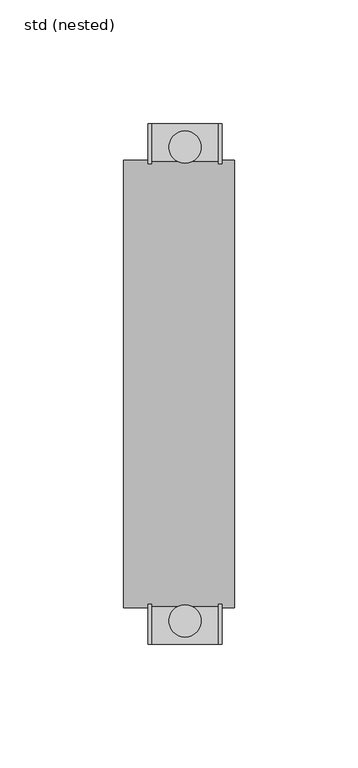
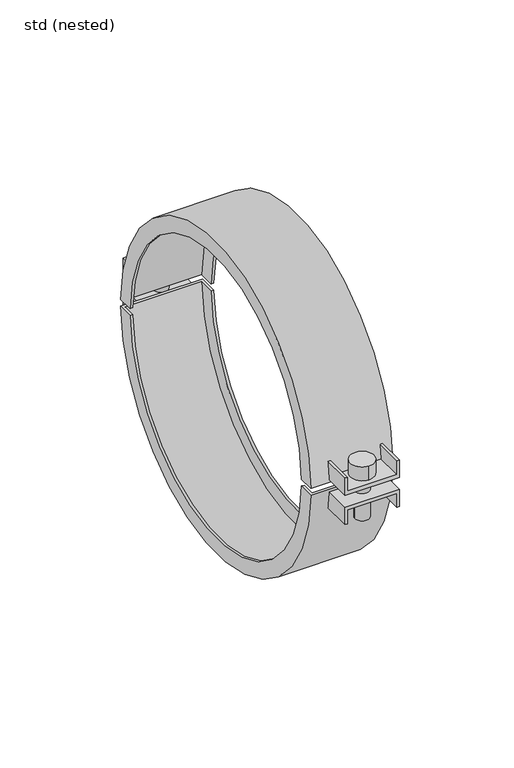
"""IFC4 building model written with IfcOpenShell, lengths in millimetres: pipe fitting geometry, ZZZ_do not use_PIF_ST_UN_ACO pipe socket clamp two parts_ACO : std (nested)."""

from ifc_helpers import new_model, si_unit, point, frame, frame_2d, origin, place, context, project, spatial, polyline, circle_curve, trimmed, segment, composite_curve, outline, extrude, source, transform, mapped, element, save
from ifc_brep_helpers import plane_surface, cylinder_surface, revolved_surface, advanced_brep


def std_nested_902816f2(model_context):
    return source(origin(), model_context, "Body", "SolidModel", [
        advanced_brep(
        [(-22.5, 90.4778979, -2.0), (-22.5, -90.4778979, -2.0), (-22.5, -81.7255315, -2.0), (-22.5, 81.7255315, -2.0), (-21.0, -81.7255315, -2.0), (-21.0, 81.7255315, -2.0), (-21.0, -88.9775253, -2.0), (-21.0, 88.9775253, -2.0), (21.0, -88.9775253, -2.0), (21.0, 88.9775253, -2.0), (21.0, -79.9749961, -2.0), (21.0, 79.9749961, -2.0), (22.5, -79.9749961, -2.0), (22.5, 79.9749961, -2.0), (22.5, -90.4778979, -2.0), (22.5, 90.4778979, -2.0)],
        [
            (0, 1, circle_curve(frame((-22.5, 0.0, 0.0), z_axis=(-1.0, 0.0, 0.0), x_axis=(0.0, 1.0, 0.0)), 90.5)),
            (1, 2),
            (2, 3, circle_curve(frame((-22.5, 0.0, 0.0), z_axis=(1.0, 0.0, 0.0), x_axis=(0.0, 1.0, 0.0)), 81.75)),
            (3, 0),
            (2, 4),
            (4, 5, circle_curve(frame((-21.0, 0.0, 0.0), z_axis=(1.0, 0.0, 0.0), x_axis=(0.0, 1.0, 0.0)), 81.75)),
            (5, 3),
            (4, 6),
            (6, 7, circle_curve(frame((-21.0, 0.0, 0.0), z_axis=(1.0, 0.0, 0.0), x_axis=(0.0, 1.0, 0.0)), 89.0)),
            (7, 5),
            (6, 8),
            (8, 9, circle_curve(frame((21.0, 0.0, 0.0), z_axis=(1.0, 0.0, 0.0), x_axis=(0.0, 1.0, 0.0)), 89.0)),
            (9, 7),
            (8, 10),
            (10, 11, circle_curve(frame((21.0, 0.0, 0.0), z_axis=(1.0, 0.0, 0.0), x_axis=(0.0, 1.0, 0.0)), 80.0)),
            (11, 9),
            (10, 12),
            (12, 13, circle_curve(frame((22.5, 0.0, 0.0), z_axis=(1.0, 0.0, 0.0), x_axis=(0.0, 1.0, 0.0)), 80.0)),
            (13, 11),
            (12, 14),
            (14, 15, circle_curve(frame((22.5, 0.0, 0.0), z_axis=(1.0, 0.0, 0.0), x_axis=(0.0, 1.0, 0.0)), 90.5)),
            (15, 13),
            (0, 15),
            (14, 1),
        ],
        [
            plane_surface(frame((-22.5, 0.0, 0.0), z_axis=(-1.0, 0.0, 0.0), x_axis=(0.0, 1.0, 0.0))),
            revolved_surface(polyline([(-22.5, 81.75, 0.0), (-21.0, 81.75, 0.0)]), (-37.5, 0.0, 0.0), (-1.0, 0.0, 0.0)),
            plane_surface(frame((-21.0, 0.0, 0.0), z_axis=(1.0, 0.0, 0.0), x_axis=(0.0, 1.0, 0.0))),
            revolved_surface(polyline([(-21.0, 89.0, 0.0), (21.0, 89.0, 0.0)]), (-37.5, 0.0, 0.0), (-1.0, 0.0, 0.0)),
            plane_surface(frame((21.0, 0.0, 0.0), z_axis=(-1.0, 0.0, 0.0), x_axis=(0.0, 1.0, 0.0))),
            revolved_surface(polyline([(21.0, 80.0, 0.0), (22.5, 80.0, 0.0)]), (-37.5, 0.0, 0.0), (-1.0, 0.0, 0.0)),
            plane_surface(frame((22.5, 0.0, 0.0), z_axis=(1.0, 0.0, 0.0), x_axis=(0.0, 1.0, 0.0))),
            cylinder_surface(frame((-37.5, 0.0, 0.0), z_axis=(-1.0, 0.0, 0.0), x_axis=(0.0, 1.0, 0.0)), 90.5),
            plane_surface(frame((22.5, -91.5, -2.0), z_axis=(0.0, 0.0, 1.0), x_axis=(-1.0, 0.0, 0.0))),
        ],
        [
            (0, [[1, 2, 3, 4]]),
            (1, [[-3, 5, 6, 7]]),
            (2, [[-6, 8, 9, 10]]),
            (3, [[-9, 11, 12, 13]]),
            (4, [[-12, 14, 15, 16]]),
            (5, [[-15, 17, 18, 19]]),
            (6, [[-18, 20, 21, 22]]),
            (7, [[-1, 23, -21, 24]]),
            (8, [[-2, -24, -20, -17, -14, -11, -8, -5]]),
            (8, [[-4, -7, -10, -13, -16, -19, -22, -23]]),
        ],
    ),
        advanced_brep(
        [(-22.5, -90.4778979, 2.0), (-22.5, 90.4778979, 2.0), (-22.5, 81.7255315, 2.0), (-22.5, -81.7255315, 2.0), (-21.0, 81.7255315, 2.0), (-21.0, -81.7255315, 2.0), (-21.0, 88.9775253, 2.0), (-21.0, -88.9775253, 2.0), (21.0, 88.9775253, 2.0), (21.0, -88.9775253, 2.0), (21.0, 79.9749961, 2.0), (21.0, -79.9749961, 2.0), (22.5, 79.9749961, 2.0), (22.5, -79.9749961, 2.0), (22.5, 90.4778979, 2.0), (22.5, -90.4778979, 2.0)],
        [
            (0, 1, circle_curve(frame((-22.5, 0.0, 0.0), z_axis=(-1.0, 0.0, 0.0), x_axis=(0.0, 1.0, 0.0)), 90.5)),
            (1, 2),
            (2, 3, circle_curve(frame((-22.5, 0.0, 0.0), z_axis=(1.0, 0.0, 0.0), x_axis=(0.0, 1.0, 0.0)), 81.75)),
            (3, 0),
            (2, 4),
            (4, 5, circle_curve(frame((-21.0, 0.0, 0.0), z_axis=(1.0, 0.0, 0.0), x_axis=(0.0, 1.0, 0.0)), 81.75)),
            (5, 3),
            (4, 6),
            (6, 7, circle_curve(frame((-21.0, 0.0, 0.0), z_axis=(1.0, 0.0, 0.0), x_axis=(0.0, 1.0, 0.0)), 89.0)),
            (7, 5),
            (6, 8),
            (8, 9, circle_curve(frame((21.0, 0.0, 0.0), z_axis=(1.0, 0.0, 0.0), x_axis=(0.0, 1.0, 0.0)), 89.0)),
            (9, 7),
            (8, 10),
            (10, 11, circle_curve(frame((21.0, 0.0, 0.0), z_axis=(1.0, 0.0, 0.0), x_axis=(0.0, 1.0, 0.0)), 80.0)),
            (11, 9),
            (10, 12),
            (12, 13, circle_curve(frame((22.5, 0.0, 0.0), z_axis=(1.0, 0.0, 0.0), x_axis=(0.0, 1.0, 0.0)), 80.0)),
            (13, 11),
            (12, 14),
            (14, 15, circle_curve(frame((22.5, 0.0, 0.0), z_axis=(1.0, 0.0, 0.0), x_axis=(0.0, 1.0, 0.0)), 90.5)),
            (15, 13),
            (0, 15),
            (14, 1),
        ],
        [
            plane_surface(frame((-22.5, 0.0, 0.0), z_axis=(-1.0, 0.0, 0.0), x_axis=(0.0, 1.0, 0.0))),
            revolved_surface(polyline([(-22.5, 81.75, 0.0), (-21.0, 81.75, 0.0)]), (-37.5, 0.0, 0.0), (-1.0, 0.0, 0.0)),
            plane_surface(frame((-21.0, 0.0, 0.0), z_axis=(1.0, 0.0, 0.0), x_axis=(0.0, 1.0, 0.0))),
            revolved_surface(polyline([(-21.0, 89.0, 0.0), (21.0, 89.0, 0.0)]), (-37.5, 0.0, 0.0), (-1.0, 0.0, 0.0)),
            plane_surface(frame((21.0, 0.0, 0.0), z_axis=(-1.0, 0.0, 0.0), x_axis=(0.0, 1.0, 0.0))),
            revolved_surface(polyline([(21.0, 80.0, 0.0), (22.5, 80.0, 0.0)]), (-37.5, 0.0, 0.0), (-1.0, 0.0, 0.0)),
            plane_surface(frame((22.5, 0.0, 0.0), z_axis=(1.0, 0.0, 0.0), x_axis=(0.0, 1.0, 0.0))),
            cylinder_surface(frame((-37.5, 0.0, 0.0), z_axis=(-1.0, 0.0, 0.0), x_axis=(0.0, 1.0, 0.0)), 90.5),
            plane_surface(frame((22.5, 91.5, 2.0), z_axis=(0.0, 0.0, -1.0), x_axis=(-1.0, 0.0, 0.0))),
        ],
        [
            (0, [[1, 2, 3, 4]]),
            (1, [[-3, 5, 6, 7]]),
            (2, [[-6, 8, 9, 10]]),
            (3, [[-9, 11, 12, 13]]),
            (4, [[-12, 14, 15, 16]]),
            (5, [[-15, 17, 18, 19]]),
            (6, [[-18, 20, 21, 22]]),
            (7, [[-1, 23, -21, 24]]),
            (8, [[-2, -24, -20, -17, -14, -11, -8, -5]]),
            (8, [[-4, -7, -10, -13, -16, -19, -22, -23]]),
        ],
    ),
        extrude(outline(composite_curve([segment(trimmed(circle_curve(frame_2d((2.5, -95.9)), 6.5), [point((2.5, -89.4))], [point((2.5, -102.4))], False, "CARTESIAN"), True, "CONTINUOUS"), segment(trimmed(circle_curve(frame_2d((2.5, -95.9)), 6.5), [point((2.5, -102.4))], [point((2.5, -89.4))], False, "CARTESIAN"), True, "CONTINUOUS")], self_intersect=False)), frame((0.0, 0.0, 5.5), z_axis=(0.0, 0.0, 1.0), x_axis=(1.0, 0.0, 0.0)), (0.0, 0.0, 1.0), 8.0),
        extrude(outline(composite_curve([segment(trimmed(circle_curve(frame_2d((2.5, -95.9)), 4.0), [point((-1.5, -95.9))], [point((6.5, -95.9))], False, "CARTESIAN"), True, "CONTINUOUS"), segment(trimmed(circle_curve(frame_2d((2.5, -95.9)), 4.0), [point((6.5, -95.9))], [point((-1.5, -95.9))], False, "CARTESIAN"), True, "CONTINUOUS")], self_intersect=False)), frame((0.0, 0.0, -19.5), z_axis=(0.0, 0.0, 1.0), x_axis=(1.0, 0.0, 0.0)), (0.0, 0.0, 1.0), 25.0),
        advanced_brep(
        [(-12.5, -105.4, -3.5), (-12.5, -105.4, -13.5), (-11.123617, -105.4, -13.5), (-11.123617, -105.4, -5.5), (16.123617, -105.4, -5.5), (16.123617, -105.4, -13.5), (17.5, -105.4, -13.5), (17.5, -105.4, -3.5), (17.5, -88.9311531, -3.5), (-12.5, -88.9311531, -3.5), (17.5, -87.9701654, -13.5), (16.123617, -87.9701654, -13.5), (16.123617, -88.8298936, -5.5), (-11.123617, -88.8298936, -5.5), (-11.123617, -87.9701654, -13.5), (-12.5, -87.9701654, -13.5)],
        [
            (0, 1),
            (1, 2),
            (2, 3),
            (3, 4),
            (4, 5),
            (5, 6),
            (6, 7),
            (7, 0),
            (7, 8),
            (8, 9),
            (9, 0),
            (6, 10),
            (10, 8, circle_curve(frame((17.5, 0.0, 0.0), z_axis=(-1.0, 0.0, 0.0), x_axis=(0.0, 1.0, 0.0)), 89.0)),
            (5, 11),
            (11, 10),
            (4, 12),
            (12, 11, circle_curve(frame((16.123617, 0.0, 0.0), z_axis=(1.0, 0.0, 0.0), x_axis=(0.0, 1.0, 0.0)), 89.0)),
            (3, 13),
            (13, 12),
            (2, 14),
            (14, 13, circle_curve(frame((-11.123617, 0.0, 0.0), z_axis=(-1.0, 0.0, 0.0), x_axis=(0.0, 1.0, 0.0)), 89.0)),
            (1, 15),
            (15, 14),
            (9, 15, circle_curve(frame((-12.5, 0.0, 0.0), z_axis=(1.0, 0.0, 0.0), x_axis=(0.0, 1.0, 0.0)), 89.0)),
        ],
        [
            plane_surface(frame((2.5, -105.4, -3.5), z_axis=(0.0, -1.0, 0.0), x_axis=(0.0, 0.0, 1.0))),
            plane_surface(frame((17.5, -105.4, -3.5), z_axis=(0.0, 0.0, 1.0), x_axis=(0.0, 1.0, 0.0))),
            plane_surface(frame((17.5, -105.4, -13.5), z_axis=(1.0, 0.0, 0.0), x_axis=(0.0, 1.0, 0.0))),
            plane_surface(frame((16.123617, -105.4, -13.5), z_axis=(0.0, 0.0, -1.0), x_axis=(0.0, 1.0, 0.0))),
            plane_surface(frame((16.123617, -105.4, -5.5), z_axis=(-1.0, 0.0, 0.0), x_axis=(0.0, 1.0, 0.0))),
            plane_surface(frame((-11.123617, -105.4, -5.5), z_axis=(0.0, 0.0, -1.0), x_axis=(0.0, 1.0, 0.0))),
            plane_surface(frame((-11.123617, -105.4, -13.5), z_axis=(1.0, 0.0, 0.0), x_axis=(0.0, 1.0, 0.0))),
            plane_surface(frame((-12.5, -105.4, -13.5), z_axis=(0.0, 0.0, -1.0), x_axis=(0.0, 1.0, 0.0))),
            plane_surface(frame((-12.5, -105.4, -3.5), z_axis=(-1.0, 0.0, 0.0), x_axis=(0.0, 1.0, 0.0))),
            revolved_surface(polyline([(-12.5, 89.0, 0.0), (17.5, 89.0, 0.0)]), (-60.75, 0.0, 0.0), (-1.0, 0.0, 0.0)),
        ],
        [
            (0, [[1, 2, 3, 4, 5, 6, 7, 8]]),
            (1, [[-8, 9, 10, 11]]),
            (2, [[-7, 12, 13, -9]]),
            (3, [[-6, 14, 15, -12]]),
            (4, [[-5, 16, 17, -14]]),
            (5, [[-4, 18, 19, -16]]),
            (6, [[-3, 20, 21, -18]]),
            (7, [[-2, 22, 23, -20]]),
            (8, [[-1, -11, 24, -22]]),
            (9, [[-10, -13, -15, -17, -19, -21, -23, -24]]),
        ],
    ),
        advanced_brep(
        [(-12.5, 105.4, -3.5), (17.5, 105.4, -3.5), (17.5, 105.4, -13.5), (16.123617, 105.4, -13.5), (16.123617, 105.4, -5.5), (-11.123617, 105.4, -5.5), (-11.123617, 105.4, -13.5), (-12.5, 105.4, -13.5), (-12.5, 88.9311531, -3.5), (17.5, 88.9311531, -3.5), (17.5, 87.9701654, -13.5), (16.123617, 87.9701654, -13.5), (16.123617, 88.8298936, -5.5), (-11.123617, 88.8298936, -5.5), (-11.123617, 87.9701654, -13.5), (-12.5, 87.9701654, -13.5)],
        [
            (0, 1),
            (1, 2),
            (2, 3),
            (3, 4),
            (4, 5),
            (5, 6),
            (6, 7),
            (7, 0),
            (0, 8),
            (8, 9),
            (9, 1),
            (9, 10, circle_curve(frame((17.5, 0.0, 0.0), z_axis=(-1.0, 0.0, 0.0), x_axis=(0.0, 1.0, 0.0)), 89.0)),
            (10, 2),
            (10, 11),
            (11, 3),
            (11, 12, circle_curve(frame((16.123617, 0.0, 0.0), z_axis=(1.0, 0.0, 0.0), x_axis=(0.0, 1.0, 0.0)), 89.0)),
            (12, 4),
            (12, 13),
            (13, 5),
            (13, 14, circle_curve(frame((-11.123617, 0.0, 0.0), z_axis=(-1.0, 0.0, 0.0), x_axis=(0.0, 1.0, 0.0)), 89.0)),
            (14, 6),
            (14, 15),
            (15, 7),
            (15, 8, circle_curve(frame((-12.5, 0.0, 0.0), z_axis=(1.0, 0.0, 0.0), x_axis=(0.0, 1.0, 0.0)), 89.0)),
        ],
        [
            plane_surface(frame((2.5, 105.4, -3.5), z_axis=(0.0, 1.0, 0.0), x_axis=(0.0, 0.0, 1.0))),
            plane_surface(frame((17.5, -105.4, -3.5), z_axis=(0.0, 0.0, 1.0), x_axis=(0.0, 1.0, 0.0))),
            plane_surface(frame((17.5, -105.4, -13.5), z_axis=(1.0, 0.0, 0.0), x_axis=(0.0, 1.0, 0.0))),
            plane_surface(frame((16.123617, -105.4, -13.5), z_axis=(0.0, 0.0, -1.0), x_axis=(0.0, 1.0, 0.0))),
            plane_surface(frame((16.123617, -105.4, -5.5), z_axis=(-1.0, 0.0, 0.0), x_axis=(0.0, 1.0, 0.0))),
            plane_surface(frame((-11.123617, -105.4, -5.5), z_axis=(0.0, 0.0, -1.0), x_axis=(0.0, 1.0, 0.0))),
            plane_surface(frame((-11.123617, -105.4, -13.5), z_axis=(1.0, 0.0, 0.0), x_axis=(0.0, 1.0, 0.0))),
            plane_surface(frame((-12.5, -105.4, -13.5), z_axis=(0.0, 0.0, -1.0), x_axis=(0.0, 1.0, 0.0))),
            plane_surface(frame((-12.5, -105.4, -3.5), z_axis=(-1.0, 0.0, 0.0), x_axis=(0.0, 1.0, 0.0))),
            revolved_surface(polyline([(-12.5, 89.0, 0.0), (17.5, 89.0, 0.0)]), (-60.75, 0.0, 0.0), (-1.0, 0.0, 0.0)),
        ],
        [
            (0, [[1, 2, 3, 4, 5, 6, 7, 8]]),
            (1, [[-1, 9, 10, 11]]),
            (2, [[-2, -11, 12, 13]]),
            (3, [[-3, -13, 14, 15]]),
            (4, [[-4, -15, 16, 17]]),
            (5, [[-5, -17, 18, 19]]),
            (6, [[-6, -19, 20, 21]]),
            (7, [[-7, -21, 22, 23]]),
            (8, [[-8, -23, 24, -9]]),
            (9, [[-10, -24, -22, -20, -18, -16, -14, -12]]),
        ],
    ),
        advanced_brep(
        [(-12.5, -105.4, 3.5), (17.5, -105.4, 3.5), (17.5, -105.4, 13.5), (16.123617, -105.4, 13.5), (16.123617, -105.4, 5.5), (-11.123617, -105.4, 5.5), (-11.123617, -105.4, 13.5), (-12.5, -105.4, 13.5), (-12.5, -88.9311531, 3.5), (17.5, -88.9311531, 3.5), (17.5, -87.9701654, 13.5), (16.123617, -87.9701654, 13.5), (16.123617, -88.8298936, 5.5), (-11.123617, -88.8298936, 5.5), (-11.123617, -87.9701654, 13.5), (-12.5, -87.9701654, 13.5)],
        [
            (0, 1),
            (1, 2),
            (2, 3),
            (3, 4),
            (4, 5),
            (5, 6),
            (6, 7),
            (7, 0),
            (0, 8),
            (8, 9),
            (9, 1),
            (9, 10, circle_curve(frame((17.5, 0.0, 0.0), z_axis=(-1.0, 0.0, 0.0), x_axis=(0.0, 1.0, 0.0)), 89.0)),
            (10, 2),
            (10, 11),
            (11, 3),
            (11, 12, circle_curve(frame((16.123617, 0.0, 0.0), z_axis=(1.0, 0.0, 0.0), x_axis=(0.0, 1.0, 0.0)), 89.0)),
            (12, 4),
            (12, 13),
            (13, 5),
            (13, 14, circle_curve(frame((-11.123617, 0.0, 0.0), z_axis=(-1.0, 0.0, 0.0), x_axis=(0.0, 1.0, 0.0)), 89.0)),
            (14, 6),
            (14, 15),
            (15, 7),
            (15, 8, circle_curve(frame((-12.5, 0.0, 0.0), z_axis=(1.0, 0.0, 0.0), x_axis=(0.0, 1.0, 0.0)), 89.0)),
        ],
        [
            plane_surface(frame((2.5, -105.4, 3.5), z_axis=(0.0, -1.0, 0.0), x_axis=(0.0, 0.0, 1.0))),
            plane_surface(frame((-12.5, -105.4, 3.5), z_axis=(0.0, 0.0, -1.0), x_axis=(0.0, 1.0, 0.0))),
            plane_surface(frame((17.5, -105.4, 3.5), z_axis=(1.0, 0.0, 0.0), x_axis=(0.0, 1.0, 0.0))),
            plane_surface(frame((17.5, -105.4, 13.5), z_axis=(0.0, 0.0, 1.0), x_axis=(0.0, 1.0, 0.0))),
            plane_surface(frame((16.123617, -105.4, 13.5), z_axis=(-1.0, 0.0, 0.0), x_axis=(0.0, 1.0, 0.0))),
            plane_surface(frame((16.123617, -105.4, 5.5), z_axis=(0.0, 0.0, 1.0), x_axis=(0.0, 1.0, 0.0))),
            plane_surface(frame((-11.123617, -105.4, 5.5), z_axis=(1.0, 0.0, 0.0), x_axis=(0.0, 1.0, 0.0))),
            plane_surface(frame((-11.123617, -105.4, 13.5), z_axis=(0.0, 0.0, 1.0), x_axis=(0.0, 1.0, 0.0))),
            plane_surface(frame((-12.5, -105.4, 13.5), z_axis=(-1.0, 0.0, 0.0), x_axis=(0.0, 1.0, 0.0))),
            revolved_surface(polyline([(-12.5, 89.0, 0.0), (17.5, 89.0, 0.0)]), (-60.75, 0.0, 0.0), (-1.0, 0.0, 0.0)),
        ],
        [
            (0, [[1, 2, 3, 4, 5, 6, 7, 8]]),
            (1, [[-1, 9, 10, 11]]),
            (2, [[-2, -11, 12, 13]]),
            (3, [[-3, -13, 14, 15]]),
            (4, [[-4, -15, 16, 17]]),
            (5, [[-5, -17, 18, 19]]),
            (6, [[-6, -19, 20, 21]]),
            (7, [[-7, -21, 22, 23]]),
            (8, [[-8, -23, 24, -9]]),
            (9, [[-10, -24, -22, -20, -18, -16, -14, -12]]),
        ],
    ),
        advanced_brep(
        [(-12.5, 105.4, 3.5), (-12.5, 105.4, 13.5), (-11.123617, 105.4, 13.5), (-11.123617, 105.4, 5.5), (16.123617, 105.4, 5.5), (16.123617, 105.4, 13.5), (17.5, 105.4, 13.5), (17.5, 105.4, 3.5), (17.5, 88.9311531, 3.5), (-12.5, 88.9311531, 3.5), (17.5, 87.9701654, 13.5), (16.123617, 87.9701654, 13.5), (16.123617, 88.8298936, 5.5), (-11.123617, 88.8298936, 5.5), (-11.123617, 87.9701654, 13.5), (-12.5, 87.9701654, 13.5)],
        [
            (0, 1),
            (1, 2),
            (2, 3),
            (3, 4),
            (4, 5),
            (5, 6),
            (6, 7),
            (7, 0),
            (7, 8),
            (8, 9),
            (9, 0),
            (6, 10),
            (10, 8, circle_curve(frame((17.5, 0.0, 0.0), z_axis=(-1.0, 0.0, 0.0), x_axis=(0.0, 1.0, 0.0)), 89.0)),
            (5, 11),
            (11, 10),
            (4, 12),
            (12, 11, circle_curve(frame((16.123617, 0.0, 0.0), z_axis=(1.0, 0.0, 0.0), x_axis=(0.0, 1.0, 0.0)), 89.0)),
            (3, 13),
            (13, 12),
            (2, 14),
            (14, 13, circle_curve(frame((-11.123617, 0.0, 0.0), z_axis=(-1.0, 0.0, 0.0), x_axis=(0.0, 1.0, 0.0)), 89.0)),
            (1, 15),
            (15, 14),
            (9, 15, circle_curve(frame((-12.5, 0.0, 0.0), z_axis=(1.0, 0.0, 0.0), x_axis=(0.0, 1.0, 0.0)), 89.0)),
        ],
        [
            plane_surface(frame((2.5, 105.4, 3.5), z_axis=(0.0, 1.0, 0.0), x_axis=(0.0, 0.0, 1.0))),
            plane_surface(frame((-12.5, -105.4, 3.5), z_axis=(0.0, 0.0, -1.0), x_axis=(0.0, 1.0, 0.0))),
            plane_surface(frame((17.5, -105.4, 3.5), z_axis=(1.0, 0.0, 0.0), x_axis=(0.0, 1.0, 0.0))),
            plane_surface(frame((17.5, -105.4, 13.5), z_axis=(0.0, 0.0, 1.0), x_axis=(0.0, 1.0, 0.0))),
            plane_surface(frame((16.123617, -105.4, 13.5), z_axis=(-1.0, 0.0, 0.0), x_axis=(0.0, 1.0, 0.0))),
            plane_surface(frame((16.123617, -105.4, 5.5), z_axis=(0.0, 0.0, 1.0), x_axis=(0.0, 1.0, 0.0))),
            plane_surface(frame((-11.123617, -105.4, 5.5), z_axis=(1.0, 0.0, 0.0), x_axis=(0.0, 1.0, 0.0))),
            plane_surface(frame((-11.123617, -105.4, 13.5), z_axis=(0.0, 0.0, 1.0), x_axis=(0.0, 1.0, 0.0))),
            plane_surface(frame((-12.5, -105.4, 13.5), z_axis=(-1.0, 0.0, 0.0), x_axis=(0.0, 1.0, 0.0))),
            revolved_surface(polyline([(-12.5, 89.0, 0.0), (17.5, 89.0, 0.0)]), (-60.75, 0.0, 0.0), (-1.0, 0.0, 0.0)),
        ],
        [
            (0, [[1, 2, 3, 4, 5, 6, 7, 8]]),
            (1, [[-8, 9, 10, 11]]),
            (2, [[-7, 12, 13, -9]]),
            (3, [[-6, 14, 15, -12]]),
            (4, [[-5, 16, 17, -14]]),
            (5, [[-4, 18, 19, -16]]),
            (6, [[-3, 20, 21, -18]]),
            (7, [[-2, 22, 23, -20]]),
            (8, [[-1, -11, 24, -22]]),
            (9, [[-10, -13, -15, -17, -19, -21, -23, -24]]),
        ],
    ),
        extrude(outline(composite_curve([segment(trimmed(circle_curve(frame_2d((2.5, 95.9)), 6.5), [point((2.5, 89.4))], [point((2.5, 102.4))], False, "CARTESIAN"), True, "CONTINUOUS"), segment(trimmed(circle_curve(frame_2d((2.5, 95.9)), 6.5), [point((2.5, 102.4))], [point((2.5, 89.4))], False, "CARTESIAN"), True, "CONTINUOUS")], self_intersect=False)), frame((0.0, 0.0, 5.5), z_axis=(0.0, 0.0, 1.0), x_axis=(1.0, 0.0, 0.0)), (0.0, 0.0, 1.0), 8.0),
        extrude(outline(composite_curve([segment(trimmed(circle_curve(frame_2d((2.5, 95.9)), 4.0), [point((-1.5, 95.9))], [point((6.5, 95.9))], False, "CARTESIAN"), True, "CONTINUOUS"), segment(trimmed(circle_curve(frame_2d((2.5, 95.9)), 4.0), [point((6.5, 95.9))], [point((-1.5, 95.9))], False, "CARTESIAN"), True, "CONTINUOUS")], self_intersect=False)), frame((0.0, 0.0, -19.5), z_axis=(0.0, 0.0, 1.0), x_axis=(1.0, 0.0, 0.0)), (0.0, 0.0, 1.0), 25.0),
    ])


if __name__ == "__main__":
    model = new_model("IFC4")
    model_context = context("Model", 3, world=origin())
    ifc_project = project(units=[si_unit("LENGTHUNIT", "METRE", prefix="MILLI")], contexts=[model_context])
    site = spatial("IfcSite", under=ifc_project)
    building = spatial("IfcBuilding", under=site)
    placement = place(None, origin())
    std_nested_shape = std_nested_902816f2(model_context)
    element("IfcPipeFitting", 1, ObjectType="ZZZ_do not use_PIF_ST_UN_ACO pipe socket clamp two parts_ACO : std (nested)", at=placement, inside=building, context=model_context, shape_type="MappedRepresentation", body=[
        mapped(std_nested_shape, transform((0.0, 0.0, 0.0), x_axis=(1.0, 0.0, 0.0), y_axis=(0.0, 1.0, 0.0), z_axis=(0.0, 0.0, 1.0))),
    ])
    save(model, "model.ifc")
